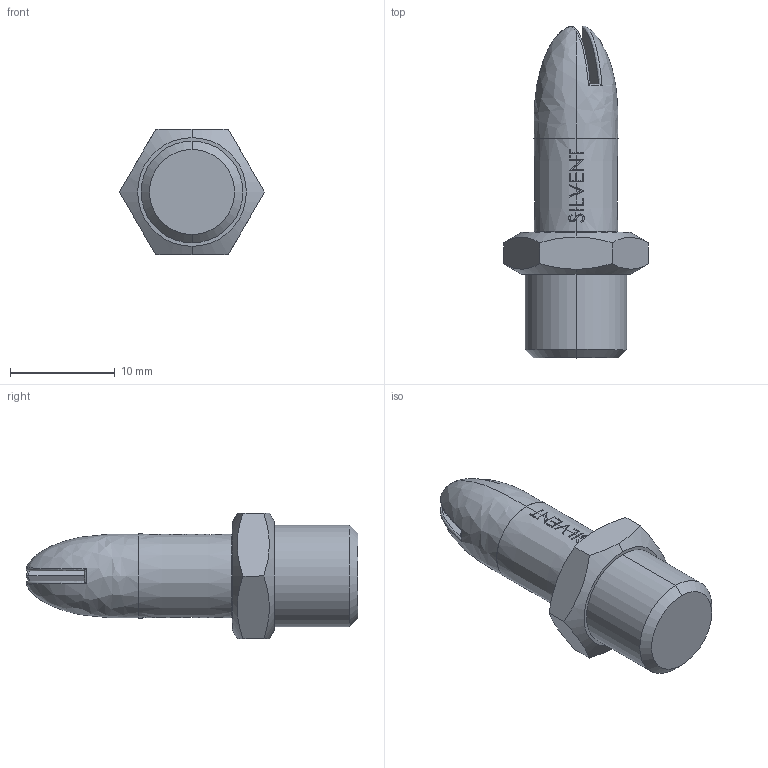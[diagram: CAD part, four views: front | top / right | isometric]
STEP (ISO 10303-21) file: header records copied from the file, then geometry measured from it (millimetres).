
FILE_DESCRIPTION (( 'STEP AP203' ), '1' );
FILE_NAME ('Silvent 811.STEP', '2019-11-19T06:55:48', ( '' ), ( '' ), 'SwSTEP 2.0', 'SolidWorks 2016', '' );
FILE_SCHEMA (( 'CONFIG_CONTROL_DESIGN' ));
Length unit declared in the file: millimetre
Products named in the file (2): Silvent 811
Bounding box: 13.86 x 31.73 x 12 mm (x, y, z)
Volume: 1868.8 mm3; surface area: 1098.1 mm2
Topology: 1 solids, 1 shells, 203 faces, 584 edges, 387 vertices
Faces by surface type: plane 134, bspline 45, cone 17, torus 5, cylinder 2
Entity records: 8922 total; most frequent: CARTESIAN_POINT 3954, ORIENTED_EDGE 1168, DIRECTION 779, EDGE_CURVE 584, VERTEX_POINT 387, VECTOR 291, LINE 291, AXIS2_PLACEMENT_3D 244
